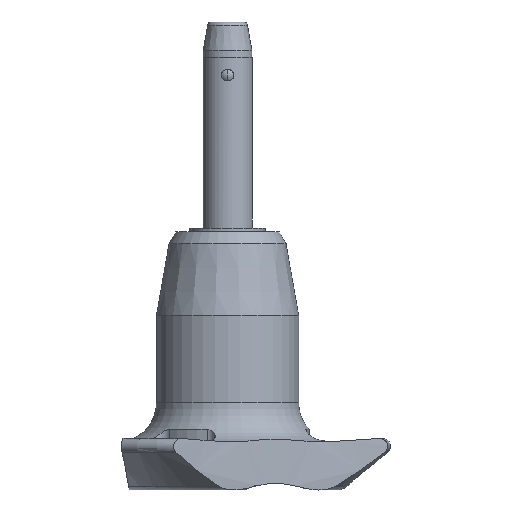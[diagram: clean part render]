
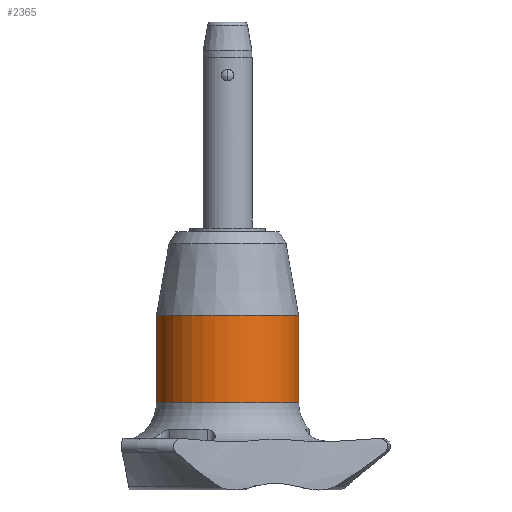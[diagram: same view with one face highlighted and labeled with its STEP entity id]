
A CAD part, front view. The second image highlights one B-rep face of the part: STEP entity #2365.
In plain terms, the highlighted cylindrical face has radius 7.25 mm (diameter 14.5 mm), a partial arc.
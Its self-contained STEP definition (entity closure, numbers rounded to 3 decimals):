
#26 = VECTOR ( 'NONE', #946, 1000. ) ;
#33 = CIRCLE ( 'NONE', #1136, 7.25 ) ;
#115 = DIRECTION ( 'NONE',  ( 0., 0., -1. ) ) ;
#127 = CARTESIAN_POINT ( 'NONE',  ( 7.25, 0., -32.8 ) ) ;
#143 = LINE ( 'NONE', #127, #26 ) ;
#282 = VERTEX_POINT ( 'NONE', #1883 ) ;
#357 = CARTESIAN_POINT ( 'NONE',  ( 0., 0., -32.8 ) ) ;
#678 = CARTESIAN_POINT ( 'NONE',  ( -7.25, 0., -32.8 ) ) ;
#784 = VERTEX_POINT ( 'NONE', #678 ) ;
#805 = CARTESIAN_POINT ( 'NONE',  ( 7.25, 0., -32.8 ) ) ;
#946 = DIRECTION ( 'NONE',  ( 0., 0., -1. ) ) ;
#1029 = DIRECTION ( 'NONE',  ( 0., 0., -1. ) ) ;
#1067 = DIRECTION ( 'NONE',  ( -1., 0., 0. ) ) ;
#1136 = AXIS2_PLACEMENT_3D ( 'NONE', #1494, #1029, #1067 ) ;
#1304 = EDGE_CURVE ( 'NONE', #2146, #2478, #143, .T. ) ;
#1326 = DIRECTION ( 'NONE',  ( 0., 0., -1. ) ) ;
#1471 = ORIENTED_EDGE ( 'NONE', *, *, #1899, .T. ) ;
#1486 = ORIENTED_EDGE ( 'NONE', *, *, #2070, .F. ) ;
#1494 = CARTESIAN_POINT ( 'NONE',  ( 0., 0., -32.8 ) ) ;
#1549 = ORIENTED_EDGE ( 'NONE', *, *, #2192, .T. ) ;
#1556 = DIRECTION ( 'NONE',  ( -1., 0., 0. ) ) ;
#1613 = LINE ( 'NONE', #2246, #2226 ) ;
#1692 = EDGE_LOOP ( 'NONE', ( #1961, #1549, #1471, #1486 ) ) ;
#1752 = CARTESIAN_POINT ( 'NONE',  ( 0., 0., -23.9 ) ) ;
#1854 = DIRECTION ( 'NONE',  ( 0., 0., -1. ) ) ;
#1883 = CARTESIAN_POINT ( 'NONE',  ( -7.25, 0., -23.9 ) ) ;
#1899 = EDGE_CURVE ( 'NONE', #282, #784, #1613, .T. ) ;
#1909 = CIRCLE ( 'NONE', #2443, 7.25 ) ;
#1961 = ORIENTED_EDGE ( 'NONE', *, *, #1304, .F. ) ;
#2070 = EDGE_CURVE ( 'NONE', #2478, #784, #33, .T. ) ;
#2146 = VERTEX_POINT ( 'NONE', #2418 ) ;
#2192 = EDGE_CURVE ( 'NONE', #2146, #282, #1909, .T. ) ;
#2226 = VECTOR ( 'NONE', #115, 1000. ) ;
#2246 = CARTESIAN_POINT ( 'NONE',  ( -7.25, 0., -32.8 ) ) ;
#2271 = AXIS2_PLACEMENT_3D ( 'NONE', #357, #1854, #2715 ) ;
#2285 = CYLINDRICAL_SURFACE ( 'NONE', #2271, 7.25 ) ;
#2365 = ADVANCED_FACE ( 'NONE', ( #2700 ), #2285, .T. ) ;
#2418 = CARTESIAN_POINT ( 'NONE',  ( 7.25, 0., -23.9 ) ) ;
#2443 = AXIS2_PLACEMENT_3D ( 'NONE', #1752, #1326, #1556 ) ;
#2478 = VERTEX_POINT ( 'NONE', #805 ) ;
#2700 = FACE_OUTER_BOUND ( 'NONE', #1692, .T. ) ;
#2715 = DIRECTION ( 'NONE',  ( -1., 0., 0. ) ) ;
